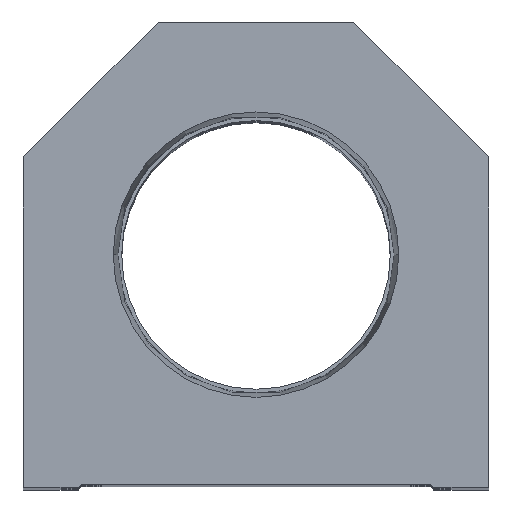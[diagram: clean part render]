
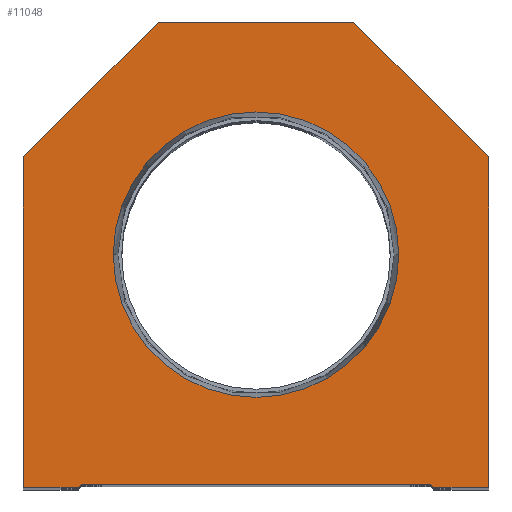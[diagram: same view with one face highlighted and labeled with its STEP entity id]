
A CAD part, top view. The second image highlights one B-rep face of the part: STEP entity #11048.
In plain terms, the highlighted planar face has unit normal (0, 0, 1).
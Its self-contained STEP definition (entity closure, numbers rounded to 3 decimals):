
#718 = DIRECTION ( 'NONE',  ( 1., 0., 0. ) ) ;
#827 = ORIENTED_EDGE ( 'NONE', *, *, #6154, .T. ) ;
#968 = CARTESIAN_POINT ( 'NONE',  ( 0., 38.1, 0. ) ) ;
#1198 = LINE ( 'NONE', #15735, #11620 ) ;
#1316 = ORIENTED_EDGE ( 'NONE', *, *, #13971, .T. ) ;
#1500 = VECTOR ( 'NONE', #4878, 1000. ) ;
#1542 = DIRECTION ( 'NONE',  ( 0., -1., 0. ) ) ;
#1667 = DIRECTION ( 'NONE',  ( -1., 0., 0. ) ) ;
#1763 = LINE ( 'NONE', #13957, #11608 ) ;
#1847 = EDGE_CURVE ( 'NONE', #11874, #12992, #11485, .T. ) ;
#1885 = AXIS2_PLACEMENT_3D ( 'NONE', #2345, #10177, #12853 ) ;
#1905 = DIRECTION ( 'NONE',  ( -0.707, -0.707, 0. ) ) ;
#1918 = VERTEX_POINT ( 'NONE', #15760 ) ;
#1980 = LINE ( 'NONE', #11377, #6294 ) ;
#1993 = FACE_OUTER_BOUND ( 'NONE', #8553, .T. ) ;
#2271 = VERTEX_POINT ( 'NONE', #6644 ) ;
#2345 = CARTESIAN_POINT ( 'NONE',  ( 0., 38.1, 0. ) ) ;
#2367 = ORIENTED_EDGE ( 'NONE', *, *, #6898, .T. ) ;
#2381 = EDGE_CURVE ( 'NONE', #16800, #3126, #5859, .T. ) ;
#2436 = VECTOR ( 'NONE', #11929, 1000. ) ;
#2469 = ORIENTED_EDGE ( 'NONE', *, *, #5325, .T. ) ;
#2831 = CARTESIAN_POINT ( 'NONE',  ( 16., 76.2, 0. ) ) ;
#3126 = VERTEX_POINT ( 'NONE', #10618 ) ;
#3478 = EDGE_CURVE ( 'NONE', #1918, #11053, #6841, .T. ) ;
#3661 = CARTESIAN_POINT ( 'NONE',  ( 0., 0., 0. ) ) ;
#4171 = CARTESIAN_POINT ( 'NONE',  ( 28.6, 0.5, 0. ) ) ;
#4707 = DIRECTION ( 'NONE',  ( 0., 0., 1. ) ) ;
#4878 = DIRECTION ( 'NONE',  ( 0.707, 0.707, 0. ) ) ;
#4887 = ORIENTED_EDGE ( 'NONE', *, *, #16050, .T. ) ;
#5152 = AXIS2_PLACEMENT_3D ( 'NONE', #968, #10097, #10277 ) ;
#5301 = VERTEX_POINT ( 'NONE', #15390 ) ;
#5325 = EDGE_CURVE ( 'NONE', #3126, #2271, #1980, .T. ) ;
#5424 = CARTESIAN_POINT ( 'NONE',  ( 38.1, 0., 0. ) ) ;
#5446 = DIRECTION ( 'NONE',  ( -0.707, 0.707, 0. ) ) ;
#5859 = LINE ( 'NONE', #13447, #16140 ) ;
#6050 = VECTOR ( 'NONE', #5446, 1000. ) ;
#6154 = EDGE_CURVE ( 'NONE', #12564, #11874, #7190, .T. ) ;
#6294 = VECTOR ( 'NONE', #1905, 1000. ) ;
#6428 = EDGE_CURVE ( 'NONE', #16633, #15599, #11562, .T. ) ;
#6613 = CARTESIAN_POINT ( 'NONE',  ( -38.1, 0., 0. ) ) ;
#6644 = CARTESIAN_POINT ( 'NONE',  ( -38.1, 54.1, 0. ) ) ;
#6841 = CIRCLE ( 'NONE', #5152, 23.374 ) ;
#6898 = EDGE_CURVE ( 'NONE', #5301, #16800, #15803, .T. ) ;
#6910 = LINE ( 'NONE', #5424, #2436 ) ;
#6946 = CARTESIAN_POINT ( 'NONE',  ( 38.1, 0., 0. ) ) ;
#7190 = LINE ( 'NONE', #8561, #7688 ) ;
#7429 = CARTESIAN_POINT ( 'NONE',  ( -29.1, 0., 0. ) ) ;
#7492 = DIRECTION ( 'NONE',  ( 1., 0., 0. ) ) ;
#7672 = CARTESIAN_POINT ( 'NONE',  ( -28.6, 0.5, 0. ) ) ;
#7688 = VECTOR ( 'NONE', #718, 1000. ) ;
#8553 = EDGE_LOOP ( 'NONE', ( #827, #14807, #4887, #12436, #1316, #12078, #2367, #16919, #2469, #8647 ) ) ;
#8561 = CARTESIAN_POINT ( 'NONE',  ( -28.6, 0., 0. ) ) ;
#8647 = ORIENTED_EDGE ( 'NONE', *, *, #16604, .T. ) ;
#8952 = ORIENTED_EDGE ( 'NONE', *, *, #3478, .F. ) ;
#9398 = AXIS2_PLACEMENT_3D ( 'NONE', #3661, #4707, #15250 ) ;
#9677 = DIRECTION ( 'NONE',  ( 1., 0., 0. ) ) ;
#10097 = DIRECTION ( 'NONE',  ( 0., 0., 1. ) ) ;
#10177 = DIRECTION ( 'NONE',  ( 0., 0., 1. ) ) ;
#10277 = DIRECTION ( 'NONE',  ( 1., 0., 0. ) ) ;
#10333 = LINE ( 'NONE', #17050, #11662 ) ;
#10575 = CARTESIAN_POINT ( 'NONE',  ( 38.1, 54.1, 0. ) ) ;
#10618 = CARTESIAN_POINT ( 'NONE',  ( -16., 76.2, 0. ) ) ;
#10698 = EDGE_CURVE ( 'NONE', #11053, #1918, #15953, .T. ) ;
#11048 = ADVANCED_FACE ( 'NONE', ( #13876, #1993 ), #12588, .T. ) ;
#11053 = VERTEX_POINT ( 'NONE', #12832 ) ;
#11259 = EDGE_LOOP ( 'NONE', ( #8952, #15011 ) ) ;
#11377 = CARTESIAN_POINT ( 'NONE',  ( -38.1, 54.1, 0. ) ) ;
#11485 = LINE ( 'NONE', #16721, #1500 ) ;
#11562 = LINE ( 'NONE', #15503, #12655 ) ;
#11608 = VECTOR ( 'NONE', #9677, 1000. ) ;
#11620 = VECTOR ( 'NONE', #1542, 1000. ) ;
#11662 = VECTOR ( 'NONE', #7492, 1000. ) ;
#11874 = VERTEX_POINT ( 'NONE', #7429 ) ;
#11929 = DIRECTION ( 'NONE',  ( 0., 1., 0. ) ) ;
#12078 = ORIENTED_EDGE ( 'NONE', *, *, #15988, .T. ) ;
#12436 = ORIENTED_EDGE ( 'NONE', *, *, #6428, .T. ) ;
#12564 = VERTEX_POINT ( 'NONE', #6613 ) ;
#12588 = PLANE ( 'NONE',  #9398 ) ;
#12655 = VECTOR ( 'NONE', #16808, 1000. ) ;
#12832 = CARTESIAN_POINT ( 'NONE',  ( -23.374, 38.1, 0. ) ) ;
#12853 = DIRECTION ( 'NONE',  ( 1., 0., 0. ) ) ;
#12992 = VERTEX_POINT ( 'NONE', #7672 ) ;
#13401 = CARTESIAN_POINT ( 'NONE',  ( 29.1, 0., 0. ) ) ;
#13447 = CARTESIAN_POINT ( 'NONE',  ( 16., 76.2, 0. ) ) ;
#13613 = VERTEX_POINT ( 'NONE', #6946 ) ;
#13876 = FACE_BOUND ( 'NONE', #11259, .T. ) ;
#13957 = CARTESIAN_POINT ( 'NONE',  ( -28.6, 0.5, 0. ) ) ;
#13971 = EDGE_CURVE ( 'NONE', #15599, #13613, #10333, .T. ) ;
#14807 = ORIENTED_EDGE ( 'NONE', *, *, #1847, .T. ) ;
#15011 = ORIENTED_EDGE ( 'NONE', *, *, #10698, .F. ) ;
#15250 = DIRECTION ( 'NONE',  ( 1., 0., 0. ) ) ;
#15390 = CARTESIAN_POINT ( 'NONE',  ( 38.1, 54.1, 0. ) ) ;
#15503 = CARTESIAN_POINT ( 'NONE',  ( 14.55, 14.55, 0. ) ) ;
#15599 = VERTEX_POINT ( 'NONE', #13401 ) ;
#15735 = CARTESIAN_POINT ( 'NONE',  ( -38.1, 0., 0. ) ) ;
#15760 = CARTESIAN_POINT ( 'NONE',  ( 23.374, 38.1, 0. ) ) ;
#15803 = LINE ( 'NONE', #10575, #6050 ) ;
#15953 = CIRCLE ( 'NONE', #1885, 23.374 ) ;
#15988 = EDGE_CURVE ( 'NONE', #13613, #5301, #6910, .T. ) ;
#16050 = EDGE_CURVE ( 'NONE', #12992, #16633, #1763, .T. ) ;
#16140 = VECTOR ( 'NONE', #1667, 1000. ) ;
#16604 = EDGE_CURVE ( 'NONE', #2271, #12564, #1198, .T. ) ;
#16633 = VERTEX_POINT ( 'NONE', #4171 ) ;
#16721 = CARTESIAN_POINT ( 'NONE',  ( -14.55, 14.55, 0. ) ) ;
#16800 = VERTEX_POINT ( 'NONE', #2831 ) ;
#16808 = DIRECTION ( 'NONE',  ( 0.707, -0.707, 0. ) ) ;
#16919 = ORIENTED_EDGE ( 'NONE', *, *, #2381, .T. ) ;
#17050 = CARTESIAN_POINT ( 'NONE',  ( 28.6, 0., 0. ) ) ;
